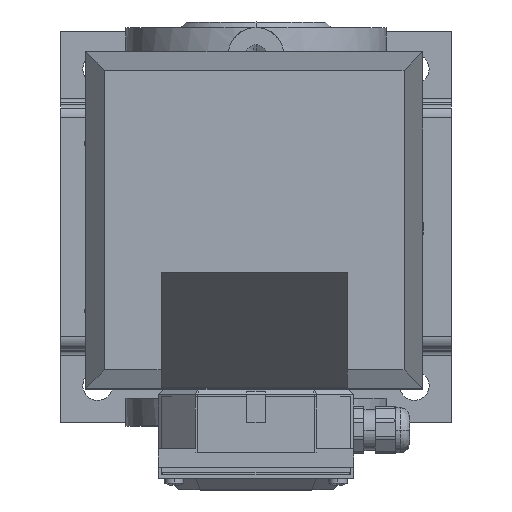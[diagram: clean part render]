
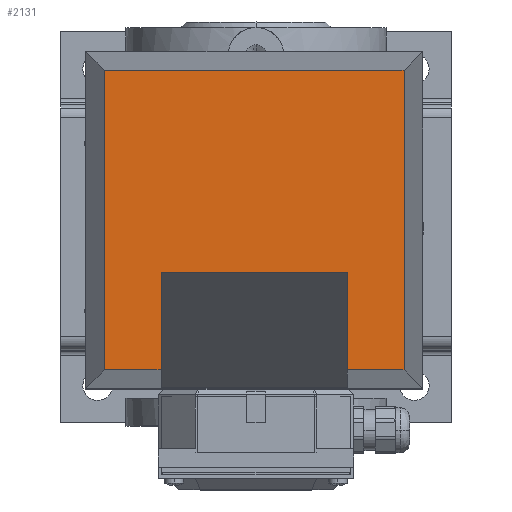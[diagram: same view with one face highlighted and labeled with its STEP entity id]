
A CAD part, top view. The second image highlights one B-rep face of the part: STEP entity #2131.
In plain terms, the highlighted planar face has unit normal (0, 0, 1) as drawn and (0, 1, 0) by its records, which use the part's own axes.
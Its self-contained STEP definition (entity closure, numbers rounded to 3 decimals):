
#2131=ADVANCED_FACE('',(#3892),#3893,.T.);
#2141=EDGE_CURVE('',#3905,#3908,#3909,.T.);
#3892=FACE_OUTER_BOUND('',#11739,.T.);
#3893=PLANE('',#11740);
#3905=VERTEX_POINT('',#11753);
#3908=VERTEX_POINT('',#11758);
#3909=LINE('',#11759,#11760);
#11739=EDGE_LOOP('',(#20249,#20250,#20251,#20252,#20253,#20254,#20255,#20256));
#11740=AXIS2_PLACEMENT_3D('',#20257,#20258,#20259);
#11753=CARTESIAN_POINT('',(50.0,114.0,118.64));
#11758=CARTESIAN_POINT('',(50.0,114.0,171.0));
#11759=CARTESIAN_POINT('',(50.0,114.0,90.179));
#11760=VECTOR('',#20285,1.0);
#20249=ORIENTED_EDGE('',*,*,#2141,.T.);
#20250=ORIENTED_EDGE('',*,*,#44323,.F.);
#20251=ORIENTED_EDGE('',*,*,#44331,.F.);
#20252=ORIENTED_EDGE('',*,*,#44333,.F.);
#20253=ORIENTED_EDGE('',*,*,#44325,.F.);
#20254=ORIENTED_EDGE('',*,*,#44319,.F.);
#20255=ORIENTED_EDGE('',*,*,#44312,.T.);
#20256=ORIENTED_EDGE('',*,*,#44315,.T.);
#20257=CARTESIAN_POINT('',(0.0,114.0,0.0));
#20258=DIRECTION('',(0.0,1.0,-0.0));
#20259=DIRECTION('',(-1.0,0.0,0.0));
#20285=DIRECTION('',(0.0,0.0,1.0));
#44312=EDGE_CURVE('',#65974,#65976,#65978,.T.);
#44315=EDGE_CURVE('',#65976,#3905,#65981,.T.);
#44319=EDGE_CURVE('',#65974,#65985,#65986,.T.);
#44323=EDGE_CURVE('',#65991,#3908,#65993,.T.);
#44325=EDGE_CURVE('',#65985,#65995,#65996,.T.);
#44331=EDGE_CURVE('',#66001,#65991,#66003,.T.);
#44333=EDGE_CURVE('',#65995,#66001,#66005,.T.);
#65974=VERTEX_POINT('',#76787);
#65976=VERTEX_POINT('',#76790);
#65978=LINE('',#76793,#76794);
#65981=LINE('',#76798,#76799);
#65985=VERTEX_POINT('',#76804);
#65986=LINE('',#76805,#76806);
#65991=VERTEX_POINT('',#76813);
#65993=LINE('',#76816,#76817);
#65995=VERTEX_POINT('',#76819);
#65996=LINE('',#76820,#76821);
#66001=VERTEX_POINT('',#76829);
#66003=LINE('',#76832,#76833);
#66005=LINE('',#76835,#76836);
#76787=CARTESIAN_POINT('',(-50.0,114.0,171.0));
#76790=CARTESIAN_POINT('',(-50.0,114.0,118.64));
#76793=CARTESIAN_POINT('',(-50.0,114.0,90.179));
#76794=VECTOR('',#88593,1.0);
#76798=CARTESIAN_POINT('',(25.0,114.0,118.64));
#76799=VECTOR('',#88595,1.0);
#76804=CARTESIAN_POINT('',(-80.5,114.0,171.0));
#76805=CARTESIAN_POINT('',(45.25,114.0,171.0));
#76806=VECTOR('',#88597,1.0);
#76813=CARTESIAN_POINT('',(80.5,114.0,171.0));
#76816=CARTESIAN_POINT('',(45.25,114.0,171.0));
#76817=VECTOR('',#88601,1.0);
#76819=CARTESIAN_POINT('',(-80.5,114.0,10.0));
#76820=CARTESIAN_POINT('',(-80.5,114.0,0.0));
#76821=VECTOR('',#88602,1.0);
#76829=CARTESIAN_POINT('',(80.5,114.0,10.0));
#76832=CARTESIAN_POINT('',(80.5,114.0,0.0));
#76833=VECTOR('',#88607,1.0);
#76835=CARTESIAN_POINT('',(45.25,114.0,10.0));
#76836=VECTOR('',#88608,1.0);
#88593=DIRECTION('',(-0.0,0.0,-1.0));
#88595=DIRECTION('',(1.0,-0.0,0.0));
#88597=DIRECTION('',(-1.0,0.0,-0.0));
#88601=DIRECTION('',(-1.0,0.0,-0.0));
#88602=DIRECTION('',(-0.0,-0.0,-1.0));
#88607=DIRECTION('',(-0.0,0.0,1.0));
#88608=DIRECTION('',(1.0,-0.0,-0.0));
